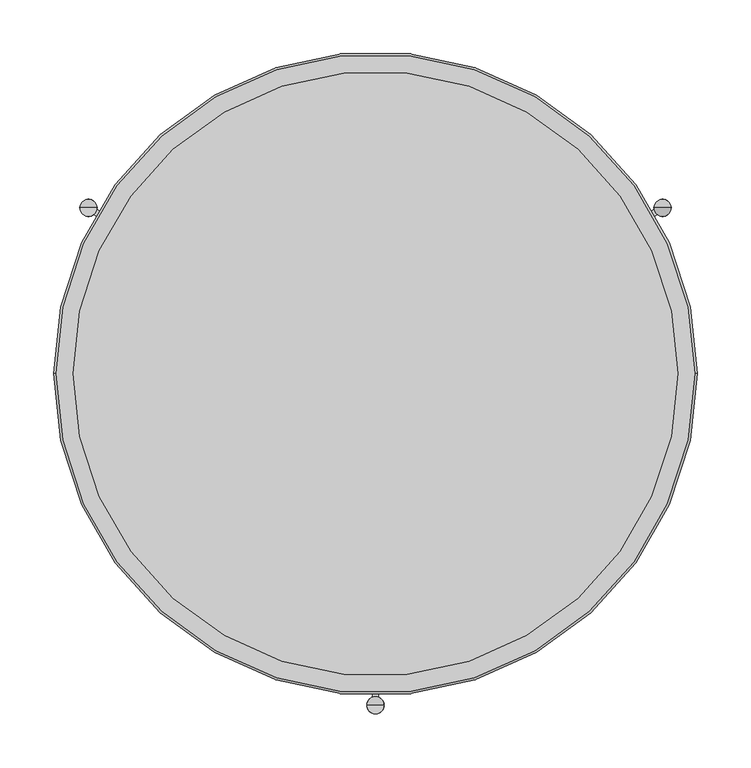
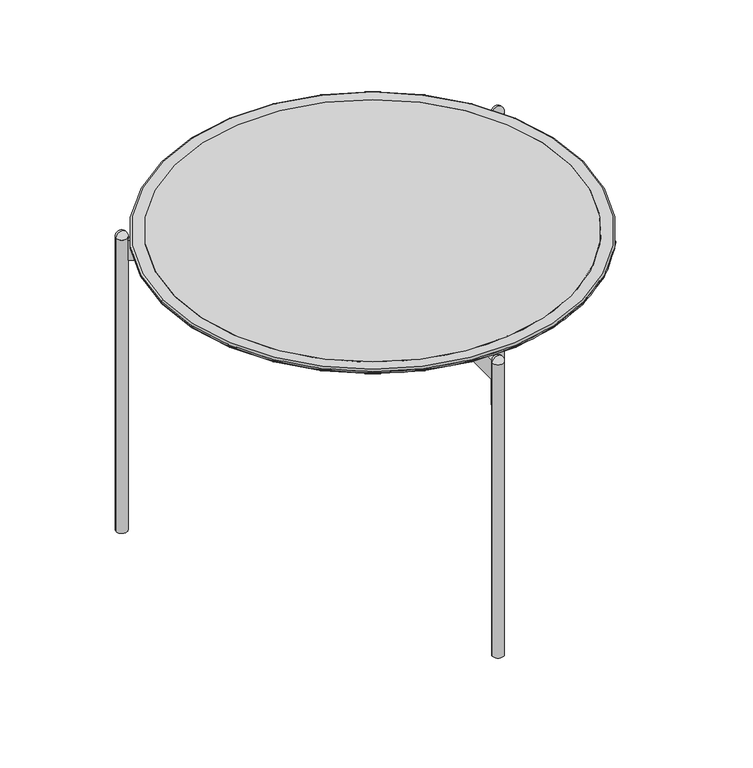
"""IFC4 building model written with IfcOpenShell, lengths in millimetres: furniture geometry, ROUND TABLE_H=45 : EI145B050060A_F."""

from ifc_helpers import new_model, si_unit, point, frame, frame_2d, origin, origin_with_axes, origin_2d, place, context, project, spatial, polyline, circle_curve, ellipse_curve, trimmed, segment, composite_curve, outline, extrude, source, transform, mapped, element, save
from ifc_brep_helpers import plane_surface, cylinder_surface, revolved_surface, advanced_brep


def furniture_dfe64af2(model_context):
    return source(origin(), model_context, "Body", "SolidModel", [
        advanced_brep(
        [(-281.6888354, 0.0, 449.6939464), (281.6888354, 0.0, 449.6939464), (271.7931495, 0.0, 437.6939464), (-271.7931495, 0.0, 437.6939464), (-281.6888354, 0.0, 442.9555759), (281.6888354, 0.0, 442.9555759)],
        [
            (0, 1, circle_curve(frame((0.0, 0.0, 449.6939464), z_axis=(0.0, 0.0, 1.0), x_axis=(1.0, 0.0, 0.0)), 281.6888354)),
            (1, 0, circle_curve(frame((0.0, 0.0, 449.6939464), z_axis=(0.0, 0.0, 1.0), x_axis=(1.0, 0.0, 0.0)), 281.6888354)),
            (2, 3, circle_curve(frame((0.0, 0.0, 437.6939464), z_axis=(0.0, 0.0, -1.0), x_axis=(-1.0, 0.0, 0.0)), 271.7931495)),
            (3, 2, circle_curve(frame((0.0, 0.0, 437.6939464), z_axis=(0.0, 0.0, -1.0), x_axis=(1.0, 0.0, 0.0)), 271.7931495)),
            (0, 4),
            (4, 5, circle_curve(frame((0.0, 0.0, 442.9555759), z_axis=(0.0, 0.0, 1.0), x_axis=(1.0, 0.0, 0.0)), 281.6888354)),
            (5, 1),
            (5, 4, circle_curve(frame((0.0, 0.0, 442.9555759), z_axis=(0.0, 0.0, 1.0), x_axis=(1.0, 0.0, 0.0)), 281.6888354)),
            (4, 3),
            (2, 5),
        ],
        [
            plane_surface(frame((281.6888354, 0.0, 449.6939464), z_axis=(0.0, 0.0, 1.0), x_axis=(0.0, 1.0, 0.0))),
            plane_surface(frame((281.6888354, 0.0, 437.6939464), z_axis=(0.0, 0.0, -1.0), x_axis=(0.0, -1.0, 0.0))),
            cylinder_surface(frame((0.0, 0.0, 437.6939464), z_axis=(0.0, 0.0, 1.0), x_axis=(1.0, 0.0, 0.0)), 281.6888354),
            revolved_surface(polyline([(-271.7931495, 0.0, 437.6939464), (-298.6736789, 0.0, 451.9865774)]), (0.0, 0.0, 437.6939464), (0.0, 0.0, 1.0)),
            revolved_surface(polyline([(271.7931495, 0.0, 437.6939464), (298.6736789, 0.0, 451.9865774)]), (0.0, 0.0, 437.6939464), (0.0, 0.0, 1.0)),
        ],
        [
            (0, [[1, 2]]),
            (1, [[3, 4]]),
            (2, [[-1, 5, 6, 7]]),
            (2, [[-2, -7, 8, -5]]),
            (3, [[9, -3, 10, -6]]),
            (4, [[-9, -8, -10, -4]]),
        ],
    ),
        advanced_brep(
        [(281.6888354, 0.0, 437.6939464), (-281.6888354, 0.0, 437.6939464), (-281.6888354, 0.0, 449.6939464), (281.6888354, 0.0, 449.6939464), (289.0176248, 0.0, 438.0050898), (-289.0176248, 0.0, 438.0050898), (-287.8673572, 0.0, 437.6939464), (287.8673572, 0.0, 437.6939464), (298.8983956, 0.0, 443.7097555), (-298.8983956, 0.0, 443.7097555), (299.9899008, 0.0, 445.4486469), (-299.9899008, 0.0, 445.4486469), (299.9899008, 0.0, 447.6939464), (-299.9899008, 0.0, 447.6939464), (297.9899008, 0.0, 449.6939464), (-297.9899008, 0.0, 449.6939464)],
        [
            (0, 1, circle_curve(frame((0.0, 0.0, 437.6939464), z_axis=(0.0, 0.0, -1.0), x_axis=(-1.0, 0.0, 0.0)), 281.6888354)),
            (1, 2),
            (2, 3, circle_curve(frame((0.0, 0.0, 449.6939464), z_axis=(0.0, 0.0, 1.0), x_axis=(-1.0, 0.0, 0.0)), 281.6888354)),
            (3, 0),
            (4, 5, circle_curve(frame((0.0, 0.0, 438.0050898), z_axis=(0.0, 0.0, -1.0), x_axis=(-1.0, 0.0, 0.0)), 289.0176248)),
            (5, 6, circle_curve(frame((-287.8673572, 0.0, 439.9757328), z_axis=(0.0, -1.0, 0.0), x_axis=(1.0, 0.0, 0.0)), 2.2817865)),
            (6, 7, circle_curve(frame((0.0, 0.0, 437.6939464), z_axis=(0.0, 0.0, 1.0), x_axis=(-1.0, 0.0, 0.0)), 287.8673572)),
            (7, 4, circle_curve(frame((287.8673572, 0.0, 439.9757328), z_axis=(0.0, -1.0, 0.0), x_axis=(-1.0, 0.0, 0.0)), 2.2817865)),
            (8, 9, circle_curve(frame((0.0, 0.0, 443.7097555), z_axis=(0.0, 0.0, -1.0), x_axis=(-1.0, 0.0, 0.0)), 298.8983956)),
            (9, 5),
            (4, 8),
            (10, 11, circle_curve(frame((0.0, 0.0, 445.4486469), z_axis=(0.0, 0.0, -1.0), x_axis=(-1.0, 0.0, 0.0)), 299.9899008)),
            (11, 9, circle_curve(frame((-297.8009023, 0.0, 445.6106696), z_axis=(0.0, -1.0, 0.0), x_axis=(1.0, 0.0, 0.0)), 2.1949866)),
            (8, 10, circle_curve(frame((297.8009023, 0.0, 445.6106696), z_axis=(0.0, -1.0, 0.0), x_axis=(-1.0, 0.0, 0.0)), 2.1949866)),
            (12, 13, circle_curve(frame((0.0, 0.0, 447.6939464), z_axis=(0.0, 0.0, -1.0), x_axis=(-1.0, 0.0, 0.0)), 299.9899008)),
            (13, 11),
            (10, 12),
            (14, 15, circle_curve(frame((0.0, 0.0, 449.6939464), z_axis=(0.0, 0.0, -1.0), x_axis=(-1.0, 0.0, 0.0)), 297.9899008)),
            (15, 13, circle_curve(frame((-297.9899008, 0.0, 447.6939464), z_axis=(0.0, -1.0, 0.0), x_axis=(1.0, 0.0, 0.0)), 2.0)),
            (12, 14, circle_curve(frame((297.9899008, 0.0, 447.6939464), z_axis=(0.0, -1.0, 0.0), x_axis=(-1.0, 0.0, 0.0)), 2.0)),
            (1, 0, circle_curve(frame((0.0, 0.0, 437.6939464), z_axis=(0.0, 0.0, -1.0), x_axis=(1.0, 0.0, 0.0)), 281.6888354)),
            (3, 2, circle_curve(frame((0.0, 0.0, 449.6939464), z_axis=(0.0, 0.0, 1.0), x_axis=(1.0, 0.0, 0.0)), 281.6888354)),
            (6, 7, circle_curve(frame((0.0, 0.0, 437.6939464), z_axis=(0.0, 0.0, -1.0), x_axis=(1.0, 0.0, 0.0)), 287.8673572)),
            (5, 4, circle_curve(frame((0.0, 0.0, 438.0050898), z_axis=(0.0, 0.0, -1.0), x_axis=(1.0, 0.0, 0.0)), 289.0176248)),
            (9, 8, circle_curve(frame((0.0, 0.0, 443.7097555), z_axis=(0.0, 0.0, -1.0), x_axis=(1.0, 0.0, 0.0)), 298.8983956)),
            (11, 10, circle_curve(frame((0.0, 0.0, 445.4486469), z_axis=(0.0, 0.0, -1.0), x_axis=(1.0, 0.0, 0.0)), 299.9899008)),
            (13, 12, circle_curve(frame((0.0, 0.0, 447.6939464), z_axis=(0.0, 0.0, -1.0), x_axis=(1.0, 0.0, 0.0)), 299.9899008)),
            (15, 14, circle_curve(frame((0.0, 0.0, 449.6939464), z_axis=(0.0, 0.0, -1.0), x_axis=(1.0, 0.0, 0.0)), 297.9899008)),
        ],
        [
            revolved_surface(polyline([(-281.6888354, 0.0, 449.6939464), (-281.6888354, 0.0, 437.6939464)]), (0.0, 0.0, 437.6939464), (0.0, 0.0, 1.0)),
            revolved_surface(trimmed(ellipse_curve(frame((-287.8673572, 0.0, 439.9757328), z_axis=(0.0, 1.0, 0.0), x_axis=(1.0, 0.0, 0.0)), 2.2817865, 2.2817865), [point((-287.8673572, 0.0, 437.6939464))], [point((-289.0176248, 0.0, 438.0050898))], True, "CARTESIAN"), (0.0, 0.0, 437.6939464), (0.0, 0.0, 1.0)),
            revolved_surface(polyline([(-289.0176248, 0.0, 438.0050898), (-298.8983956, 0.0, 443.7097555)]), (0.0, 0.0, 437.6939464), (0.0, 0.0, 1.0)),
            revolved_surface(trimmed(ellipse_curve(frame((-297.8009023, 0.0, 445.6106696), z_axis=(0.0, 1.0, 0.0), x_axis=(1.0, 0.0, 0.0)), 2.1949866, 2.1949866), [point((-298.8983956, 0.0, 443.7097555))], [point((-299.9899008, 0.0, 445.4486469))], True, "CARTESIAN"), (0.0, 0.0, 437.6939464), (0.0, 0.0, 1.0)),
            cylinder_surface(frame((0.0, 0.0, 437.6939464), z_axis=(0.0, 0.0, 1.0), x_axis=(-1.0, 0.0, 0.0)), 299.9899008),
            revolved_surface(trimmed(ellipse_curve(frame((-297.9899008, 0.0, 447.6939464), z_axis=(0.0, 1.0, 0.0), x_axis=(1.0, 0.0, 0.0)), 2.0, 2.0), [point((-299.9899008, 0.0, 447.6939464))], [point((-297.9899008, 0.0, 449.6939464))], True, "CARTESIAN"), (0.0, 0.0, 437.6939464), (0.0, 0.0, 1.0)),
            revolved_surface(polyline([(281.6888354, 0.0, 449.6939464), (281.6888354, 0.0, 437.6939464)]), (0.0, 0.0, 437.6939464), (0.0, 0.0, 1.0)),
            plane_surface(frame((0.0, 0.0, 437.6939464), z_axis=(0.0, 0.0, -1.0), x_axis=(1.0, 0.0, 0.0))),
            revolved_surface(trimmed(ellipse_curve(frame((287.8673572, 0.0, 439.9757328), z_axis=(0.0, -1.0, 0.0), x_axis=(-1.0, 0.0, 0.0)), 2.2817865, 2.2817865), [point((287.8673572, 0.0, 437.6939464))], [point((289.0176248, 0.0, 438.0050898))], True, "CARTESIAN"), (0.0, 0.0, 437.6939464), (0.0, 0.0, 1.0)),
            revolved_surface(polyline([(289.0176248, 0.0, 438.0050898), (298.8983956, 0.0, 443.7097555)]), (0.0, 0.0, 437.6939464), (0.0, 0.0, 1.0)),
            revolved_surface(trimmed(ellipse_curve(frame((297.8009023, 0.0, 445.6106696), z_axis=(0.0, -1.0, 0.0), x_axis=(-1.0, 0.0, 0.0)), 2.1949866, 2.1949866), [point((298.8983956, 0.0, 443.7097555))], [point((299.9899008, 0.0, 445.4486469))], True, "CARTESIAN"), (0.0, 0.0, 437.6939464), (0.0, 0.0, 1.0)),
            cylinder_surface(frame((0.0, 0.0, 437.6939464), z_axis=(0.0, 0.0, 1.0), x_axis=(1.0, 0.0, 0.0)), 299.9899008),
            revolved_surface(trimmed(ellipse_curve(frame((297.9899008, 0.0, 447.6939464), z_axis=(0.0, -1.0, 0.0), x_axis=(-1.0, 0.0, 0.0)), 2.0, 2.0), [point((299.9899008, 0.0, 447.6939464))], [point((297.9899008, 0.0, 449.6939464))], True, "CARTESIAN"), (0.0, 0.0, 437.6939464), (0.0, 0.0, 1.0)),
            plane_surface(frame((0.0, 0.0, 449.6939464), z_axis=(0.0, 0.0, 1.0), x_axis=(1.0, 0.0, 0.0))),
        ],
        [
            (0, [[1, 2, 3, 4]]),
            (1, [[5, 6, 7, 8]]),
            (2, [[9, 10, -5, 11]]),
            (3, [[12, 13, -9, 14]]),
            (4, [[15, 16, -12, 17]]),
            (5, [[18, 19, -15, 20]]),
            (6, [[21, -4, 22, -2]]),
            (7, [[23, -7], [-21, -1]]),
            (8, [[24, -8, -23, -6]]),
            (9, [[25, -11, -24, -10]]),
            (10, [[26, -14, -25, -13]]),
            (11, [[27, -17, -26, -16]]),
            (12, [[28, -20, -27, -19]]),
            (13, [[-28, -18], [-22, -3]]),
        ],
    ),
        extrude(outline(composite_curve([segment(polyline([(-19.7129166, 7.9278768), (-262.7443334, 148.2421307)]), True, "CONTINUOUS"), segment(trimmed(circle_curve(frame_2d((-267.6, 154.6)), 8.0), [point((-262.7443334, 148.2421307))], [point((-259.6895089, 153.4066303))], True, "CARTESIAN"), True, "CONTINUOUS"), segment(polyline([(-259.6895089, 153.4066303), (-16.7129166, 13.1240293), (-19.7129166, 7.9278768)]), True, "CONTINUOUS")], self_intersect=False)), frame((0.0, 0.0, 407.6939464), z_axis=(0.0, 0.0, 1.0), x_axis=(1.0, 0.0, 0.0)), (0.0, 0.0, 1.0), 30.0),
        extrude(outline(composite_curve([segment(polyline([(19.7314855, 7.9171561), (16.7314855, 13.1133085), (259.6925075, 153.38692)]), True, "CONTINUOUS"), segment(trimmed(circle_curve(frame_2d((267.6, 154.6)), 8.0), [point((259.6925075, 153.38692))], [point((262.7603454, 148.2299338))], True, "CARTESIAN"), True, "CONTINUOUS"), segment(polyline([(262.7603454, 148.2299338), (19.7314855, 7.9171561)]), True, "CONTINUOUS")], self_intersect=False)), frame((0.0, 0.0, 407.6939464), z_axis=(0.0, 0.0, 1.0), x_axis=(1.0, 0.0, 0.0)), (0.0, 0.0, 1.0), 30.0),
        extrude(outline(composite_curve([segment(polyline([(3.0, -21.0411853), (3.0, -301.5838015)]), True, "CONTINUOUS"), segment(trimmed(circle_curve(frame_2d((0.0, -309.0)), 8.0), [point((3.0, -301.5838015))], [point((-3.0, -301.5838015))], True, "CARTESIAN"), True, "CONTINUOUS"), segment(polyline([(-3.0, -301.5838015), (-3.0, -21.0411853), (3.0, -21.0411853)]), True, "CONTINUOUS")], self_intersect=False)), frame((0.0, 0.0, 407.6939464), z_axis=(0.0, 0.0, 1.0), x_axis=(1.0, 0.0, 0.0)), (0.0, 0.0, 1.0), 30.0),
        advanced_brep(
        [(267.6, 154.6, 449.1666667), (259.6, 154.6, 441.1666667), (275.6, 154.6, 441.1666667), (267.6, 154.6, 441.1666667)],
        [
            (0, 1, circle_curve(frame((267.6, 154.6, 441.1666667), z_axis=(0.0, -1.0, 0.0), x_axis=(1.0, 0.0, 0.0)), 8.0)),
            (1, 2, circle_curve(frame((267.6, 154.6, 441.1666667), z_axis=(0.0, 0.0, 1.0), x_axis=(-1.0, 0.0, 0.0)), 8.0)),
            (2, 0, circle_curve(frame((267.6, 154.6, 441.1666667), z_axis=(0.0, -1.0, 0.0), x_axis=(-1.0, 0.0, 0.0)), 8.0)),
            (2, 1, circle_curve(frame((267.6, 154.6, 441.1666667), z_axis=(0.0, 0.0, 1.0), x_axis=(-1.0, 0.0, 0.0)), 8.0)),
            (1, 3),
            (3, 2),
        ],
        [
            revolved_surface(trimmed(ellipse_curve(frame((267.6, 154.6, 441.1666667), z_axis=(0.0, 1.0, 0.0), x_axis=(1.0, 0.0, 0.0)), 8.0, 8.0), [point((259.6, 154.6, 441.1666667))], [point((267.6, 154.6, 449.1666667))], True, "CARTESIAN"), (267.6, 154.6, 2638.4), (0.0, 0.0, 1.0)),
            plane_surface(frame((267.6, 154.6, 441.1666667), z_axis=(0.0, 0.0, -1.0), x_axis=(-1.0, 0.0, 0.0))),
        ],
        [
            (0, [[1, 2, 3]]),
            (0, [[-3, 4, -1]]),
            (1, [[-2, 5, 6]]),
            (1, [[-4, -6, -5]]),
        ],
    ),
        advanced_brep(
        [(267.6, 154.6, 449.1666667), (259.6, 154.6, 441.1666667), (275.6, 154.6, 441.1666667), (267.6, 154.6, 441.1666667)],
        [
            (0, 1, circle_curve(frame((267.6, 154.6, 441.1666667), z_axis=(0.0, -1.0, 0.0), x_axis=(1.0, 0.0, 0.0)), 8.0)),
            (1, 2, circle_curve(frame((267.6, 154.6, 441.1666667), z_axis=(0.0, 0.0, 1.0), x_axis=(-1.0, 0.0, 0.0)), 8.0)),
            (2, 0, circle_curve(frame((267.6, 154.6, 441.1666667), z_axis=(0.0, -1.0, 0.0), x_axis=(-1.0, 0.0, 0.0)), 8.0)),
            (2, 1, circle_curve(frame((267.6, 154.6, 441.1666667), z_axis=(0.0, 0.0, 1.0), x_axis=(-1.0, 0.0, 0.0)), 8.0)),
            (1, 3),
            (3, 2),
        ],
        [
            revolved_surface(trimmed(ellipse_curve(frame((267.6, 154.6, 441.1666667), z_axis=(0.0, 1.0, 0.0), x_axis=(1.0, 0.0, 0.0)), 8.0, 8.0), [point((259.6, 154.6, 441.1666667))], [point((267.6, 154.6, 449.1666667))], True, "CARTESIAN"), (267.6, 154.6, 2638.4), (0.0, 0.0, 1.0)),
            plane_surface(frame((267.6, 154.6, 441.1666667), z_axis=(0.0, 0.0, -1.0), x_axis=(-1.0, 0.0, 0.0))),
        ],
        [
            (0, [[1, 2, 3]]),
            (0, [[-3, 4, -1]]),
            (1, [[-2, 5, 6]]),
            (1, [[-4, -6, -5]]),
        ],
    ),
        advanced_brep(
        [(-275.6, 154.6, 441.1666667), (-259.6, 154.6, 441.1666667), (-267.6, 154.6, 449.1666667), (-267.6, 154.6, 441.1666667)],
        [
            (0, 1, circle_curve(frame((-267.6, 154.6, 441.1666667), z_axis=(0.0, 0.0, 1.0), x_axis=(1.0, 0.0, 0.0)), 8.0)),
            (1, 2, circle_curve(frame((-267.6, 154.6, 441.1666667), z_axis=(0.0, -1.0, 0.0), x_axis=(-1.0, 0.0, 0.0)), 8.0)),
            (2, 0, circle_curve(frame((-267.6, 154.6, 441.1666667), z_axis=(0.0, -1.0, 0.0), x_axis=(1.0, 0.0, 0.0)), 8.0)),
            (1, 0, circle_curve(frame((-267.6, 154.6, 441.1666667), z_axis=(0.0, 0.0, 1.0), x_axis=(1.0, 0.0, 0.0)), 8.0)),
            (3, 1),
            (0, 3),
        ],
        [
            revolved_surface(trimmed(ellipse_curve(frame((-267.6, 154.6, 441.1666667), z_axis=(0.0, 1.0, 0.0), x_axis=(-1.0, 0.0, 0.0)), 8.0, 8.0), [point((-267.6, 154.6, 449.1666667))], [point((-259.6, 154.6, 441.1666667))], True, "CARTESIAN"), (-267.6, 154.6, 2638.4), (0.0, 0.0, -1.0)),
            plane_surface(frame((-267.6, 154.6, 441.1666667), z_axis=(0.0, 0.0, -1.0), x_axis=(1.0, 0.0, 0.0))),
        ],
        [
            (0, [[1, 2, 3]]),
            (0, [[4, -3, -2]]),
            (1, [[5, -1, 6]]),
            (1, [[-6, -4, -5]]),
        ],
    ),
        advanced_brep(
        [(-8.025371, -309.0, 441.1666667), (7.974629, -309.0, 441.1666667), (-0.025371, -309.0, 449.1666667), (-0.025371, -309.0, 441.1666667)],
        [
            (0, 1, circle_curve(frame((-0.025371, -309.0, 441.1666667), z_axis=(0.0, 0.0, 1.0), x_axis=(1.0, 0.0, 0.0)), 8.0)),
            (1, 2, circle_curve(frame((-0.025371, -309.0, 441.1666667), z_axis=(0.0, -1.0, 0.0), x_axis=(-1.0, 0.0, 0.0)), 8.0)),
            (2, 0, circle_curve(frame((-0.025371, -309.0, 441.1666667), z_axis=(0.0, -1.0, 0.0), x_axis=(1.0, 0.0, 0.0)), 8.0)),
            (1, 0, circle_curve(frame((-0.025371, -309.0, 441.1666667), z_axis=(0.0, 0.0, 1.0), x_axis=(1.0, 0.0, 0.0)), 8.0)),
            (3, 1),
            (0, 3),
        ],
        [
            revolved_surface(trimmed(ellipse_curve(frame((-0.025371, -309.0, 441.1666667), z_axis=(0.0, 1.0, 0.0), x_axis=(-1.0, 0.0, 0.0)), 8.0, 8.0), [point((-0.025371, -309.0, 449.1666667))], [point((7.974629, -309.0, 441.1666667))], True, "CARTESIAN"), (-0.025371, -309.0, 2638.4), (0.0, 0.0, -1.0)),
            plane_surface(frame((-0.025371, -309.0, 441.1666667), z_axis=(0.0, 0.0, -1.0), x_axis=(1.0, 0.0, 0.0))),
        ],
        [
            (0, [[1, 2, 3]]),
            (0, [[4, -3, -2]]),
            (1, [[5, -1, 6]]),
            (1, [[-6, -4, -5]]),
        ],
    ),
        extrude(outline(composite_curve([segment(trimmed(circle_curve(origin_2d(), 23.0), [point((-23.0, 0.0))], [point((23.0, 0.0))], False, "CARTESIAN"), True, "CONTINUOUS"), segment(trimmed(circle_curve(origin_2d(), 23.0), [point((23.0, 0.0))], [point((-23.0, 0.0))], False, "CARTESIAN"), True, "CONTINUOUS")], self_intersect=False)), frame((0.0, 0.0, 407.6939464), z_axis=(0.0, 0.0, 1.0), x_axis=(1.0, 0.0, 0.0)), (0.0, 0.0, 1.0), 30.0),
        extrude(outline(composite_curve([segment(trimmed(circle_curve(frame_2d((-267.6, 154.6)), 8.0), [point((-275.6, 154.6))], [point((-259.6, 154.6))], False, "CARTESIAN"), True, "CONTINUOUS"), segment(trimmed(circle_curve(frame_2d((-267.6, 154.6)), 8.0), [point((-259.6, 154.6))], [point((-275.6, 154.6))], False, "CARTESIAN"), True, "CONTINUOUS")], self_intersect=False)), origin_with_axes(), (0.0, 0.0, 1.0), 441.1666667),
        extrude(outline(composite_curve([segment(trimmed(circle_curve(frame_2d((267.6, 154.6)), 8.0), [point((259.6, 154.6))], [point((275.6, 154.6))], False, "CARTESIAN"), True, "CONTINUOUS"), segment(trimmed(circle_curve(frame_2d((267.6, 154.6)), 8.0), [point((275.6, 154.6))], [point((259.6, 154.6))], False, "CARTESIAN"), True, "CONTINUOUS")], self_intersect=False)), origin_with_axes(), (0.0, 0.0, 1.0), 441.1666667),
        extrude(outline(composite_curve([segment(trimmed(circle_curve(frame_2d((0.0, -309.0)), 8.0), [point((-8.0, -309.0))], [point((8.0, -309.0))], False, "CARTESIAN"), True, "CONTINUOUS"), segment(trimmed(circle_curve(frame_2d((0.0, -309.0)), 8.0), [point((8.0, -309.0))], [point((-8.0, -309.0))], False, "CARTESIAN"), True, "CONTINUOUS")], self_intersect=False)), origin_with_axes(), (0.0, 0.0, 1.0), 441.1666667),
    ])


if __name__ == "__main__":
    model = new_model("IFC4")
    model_context = context("Model", 3, world=origin())
    ifc_project = project(units=[si_unit("LENGTHUNIT", "METRE", prefix="MILLI")], contexts=[model_context])
    site = spatial("IfcSite", under=ifc_project)
    building = spatial("IfcBuilding", under=site)
    placement = place(None, origin())
    furniture_shape = furniture_dfe64af2(model_context)
    element("IfcFurniture", 1, ObjectType="ROUND TABLE_H=45 : EI145B050060A_F", at=placement, inside=building, context=model_context, shape_type="MappedRepresentation", body=[
        mapped(furniture_shape, transform((0.0, 0.0, 0.0), x_axis=(1.0, 0.0, 0.0), y_axis=(0.0, 1.0, 0.0), z_axis=(0.0, 0.0, 1.0))),
    ])
    save(model, "model.ifc")
